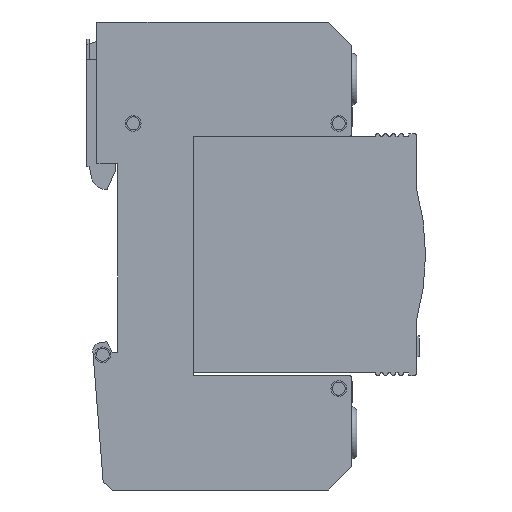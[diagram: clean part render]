
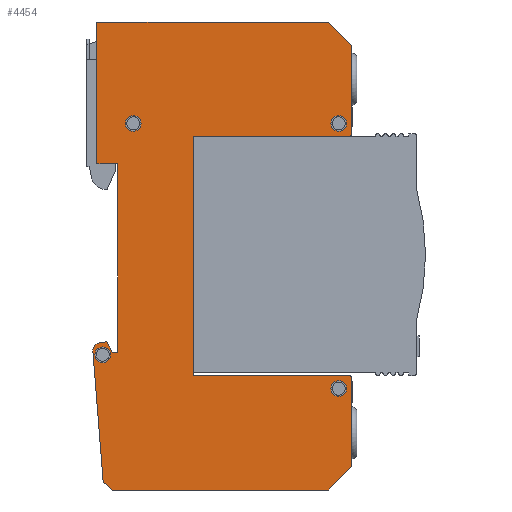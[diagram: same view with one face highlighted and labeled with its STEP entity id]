
A CAD part, front view. The second image highlights one B-rep face of the part: STEP entity #4454.
In plain terms, the highlighted planar face has unit normal (0, -1, 0).
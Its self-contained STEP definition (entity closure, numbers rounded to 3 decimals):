
#2473=CARTESIAN_POINT('',(-18.5,-18.,45.));
#2474=VERTEX_POINT('',#2473);
#2481=CARTESIAN_POINT('',(26.,-18.,45.));
#2482=VERTEX_POINT('',#2481);
#2483=CARTESIAN_POINT('',(-18.5,-18.,45.));
#2484=DIRECTION('',(1.,-0.,-0.));
#2485=VECTOR('',#2484,44.5);
#2486=LINE('',#2483,#2485);
#2487=EDGE_CURVE('',#2474,#2482,#2486,.T.);
#2581=CARTESIAN_POINT('',(26.,-18.,-45.));
#2582=VERTEX_POINT('',#2581);
#2589=CARTESIAN_POINT('',(-15.5,-18.,-45.));
#2590=VERTEX_POINT('',#2589);
#2591=CARTESIAN_POINT('',(26.,-18.,-45.));
#2592=DIRECTION('',(-1.,-0.,-0.));
#2593=VECTOR('',#2592,41.5);
#2594=LINE('',#2591,#2593);
#2595=EDGE_CURVE('',#2582,#2590,#2594,.T.);
#2789=CARTESIAN_POINT('',(-14.5,-18.,-18.5));
#2790=VERTEX_POINT('',#2789);
#2791=CARTESIAN_POINT('',(-14.5,-18.,17.75));
#2792=VERTEX_POINT('',#2791);
#2793=CARTESIAN_POINT('',(-14.5,-18.,-18.5));
#2794=DIRECTION('',(-0.,-0.,1.));
#2795=VECTOR('',#2794,36.25);
#2796=LINE('',#2793,#2795);
#2797=EDGE_CURVE('',#2790,#2792,#2796,.T.);
#2927=CARTESIAN_POINT('',(-19.273,-18.,-18.306));
#2928=VERTEX_POINT('',#2927);
#2935=CARTESIAN_POINT('',(-17.999,-18.,-16.704));
#2936=VERTEX_POINT('',#2935);
#2937=CARTESIAN_POINT('',(-17.777,-18.,-18.188));
#2938=DIRECTION('',(0.,1.,0.));
#2939=DIRECTION('',(0.,-0.,1.));
#2940=AXIS2_PLACEMENT_3D('',#2937,#2938,#2939);
#2941=CIRCLE('',#2940,1.5);
#2942=EDGE_CURVE('',#2928,#2936,#2941,.T.);
#2967=CARTESIAN_POINT('',(-16.632,-18.,-16.5));
#2968=VERTEX_POINT('',#2967);
#2969=CARTESIAN_POINT('',(-17.999,-18.,-16.704));
#2970=DIRECTION('',(0.989,-0.,0.148));
#2971=VECTOR('',#2970,1.383);
#2972=LINE('',#2969,#2971);
#2973=EDGE_CURVE('',#2936,#2968,#2972,.T.);
#2998=CARTESIAN_POINT('',(-15.5,-18.,-18.5));
#2999=VERTEX_POINT('',#2998);
#3000=CARTESIAN_POINT('',(-16.632,-18.,-16.5));
#3001=DIRECTION('',(0.492,0.,-0.87));
#3002=VECTOR('',#3001,2.298);
#3003=LINE('',#3000,#3002);
#3004=EDGE_CURVE('',#2968,#2999,#3003,.T.);
#3027=CARTESIAN_POINT('',(-15.5,-18.,-18.5));
#3028=DIRECTION('',(1.,-0.,-0.));
#3029=VECTOR('',#3028,1.);
#3030=LINE('',#3027,#3029);
#3031=EDGE_CURVE('',#2999,#2790,#3030,.T.);
#3042=CARTESIAN_POINT('',(-17.38,-18.,-17.5));
#3043=VERTEX_POINT('',#3042);
#3044=CARTESIAN_POINT('',(-18.88,-18.,-19.));
#3045=VERTEX_POINT('',#3044);
#3046=CARTESIAN_POINT('',(-17.38,-18.,-19.));
#3047=DIRECTION('',(0.,1.,0.));
#3048=DIRECTION('',(0.,-0.,1.));
#3049=AXIS2_PLACEMENT_3D('',#3046,#3047,#3048);
#3050=CIRCLE('',#3049,1.5);
#3051=EDGE_CURVE('',#3043,#3045,#3050,.T.);
#3053=CARTESIAN_POINT('',(-17.38,-18.,-19.));
#3054=DIRECTION('',(0.,1.,0.));
#3055=DIRECTION('',(0.,-0.,1.));
#3056=AXIS2_PLACEMENT_3D('',#3053,#3054,#3055);
#3057=CIRCLE('',#3056,1.5);
#3058=EDGE_CURVE('',#3045,#3043,#3057,.T.);
#3693=CARTESIAN_POINT('',(-17.29,-18.,-43.498));
#3694=VERTEX_POINT('',#3693);
#3695=CARTESIAN_POINT('',(-15.5,-18.,-45.));
#3696=DIRECTION('',(-0.766,-0.,0.643));
#3697=VECTOR('',#3696,2.337);
#3698=LINE('',#3695,#3697);
#3699=EDGE_CURVE('',#2590,#3694,#3698,.T.);
#3754=CARTESIAN_POINT('',(-17.29,-18.,-43.498));
#3755=DIRECTION('',(-0.078,-0.,0.997));
#3756=VECTOR('',#3755,25.27);
#3757=LINE('',#3754,#3756);
#3758=EDGE_CURVE('',#3694,#2928,#3757,.T.);
#3895=CARTESIAN_POINT('',(30.5,-18.,40.5));
#3896=VERTEX_POINT('',#3895);
#3897=CARTESIAN_POINT('',(26.,-18.,45.));
#3898=DIRECTION('',(0.707,0.,-0.707));
#3899=VECTOR('',#3898,6.364);
#3900=LINE('',#3897,#3899);
#3901=EDGE_CURVE('',#2482,#3896,#3900,.T.);
#3966=CARTESIAN_POINT('',(30.5,-18.,23.5));
#3967=VERTEX_POINT('',#3966);
#3968=CARTESIAN_POINT('',(30.5,-18.,40.5));
#3969=DIRECTION('',(-0.,0.,-1.));
#3970=VECTOR('',#3969,17.);
#3971=LINE('',#3968,#3970);
#3972=EDGE_CURVE('',#3896,#3967,#3971,.T.);
#3998=CARTESIAN_POINT('',(30.,-18.,23.));
#3999=VERTEX_POINT('',#3998);
#4000=CARTESIAN_POINT('',(30.,-18.,23.5));
#4001=DIRECTION('',(0.,1.,0.));
#4002=DIRECTION('',(0.,-0.,1.));
#4003=AXIS2_PLACEMENT_3D('',#4000,#4001,#4002);
#4004=CIRCLE('',#4003,0.5);
#4005=EDGE_CURVE('',#3967,#3999,#4004,.T.);
#4030=CARTESIAN_POINT('',(0.,-18.,23.));
#4031=VERTEX_POINT('',#4030);
#4032=CARTESIAN_POINT('',(30.,-18.,23.));
#4033=DIRECTION('',(-1.,-0.,-0.));
#4034=VECTOR('',#4033,30.);
#4035=LINE('',#4032,#4034);
#4036=EDGE_CURVE('',#3999,#4031,#4035,.T.);
#4061=CARTESIAN_POINT('',(0.,-18.,-23.));
#4062=VERTEX_POINT('',#4061);
#4063=CARTESIAN_POINT('',(0.,-18.,23.));
#4064=DIRECTION('',(-0.,0.,-1.));
#4065=VECTOR('',#4064,46.);
#4066=LINE('',#4063,#4065);
#4067=EDGE_CURVE('',#4031,#4062,#4066,.T.);
#4092=CARTESIAN_POINT('',(30.,-18.,-23.));
#4093=VERTEX_POINT('',#4092);
#4094=CARTESIAN_POINT('',(0.,-18.,-23.));
#4095=DIRECTION('',(1.,-0.,-0.));
#4096=VECTOR('',#4095,30.);
#4097=LINE('',#4094,#4096);
#4098=EDGE_CURVE('',#4062,#4093,#4097,.T.);
#4124=CARTESIAN_POINT('',(30.5,-18.,-23.5));
#4125=VERTEX_POINT('',#4124);
#4126=CARTESIAN_POINT('',(30.,-18.,-23.5));
#4127=DIRECTION('',(0.,1.,0.));
#4128=DIRECTION('',(0.,-0.,1.));
#4129=AXIS2_PLACEMENT_3D('',#4126,#4127,#4128);
#4130=CIRCLE('',#4129,0.5);
#4131=EDGE_CURVE('',#4093,#4125,#4130,.T.);
#4176=CARTESIAN_POINT('',(30.5,-18.,-40.5));
#4177=VERTEX_POINT('',#4176);
#4178=CARTESIAN_POINT('',(30.5,-18.,-23.5));
#4179=DIRECTION('',(-0.,0.,-1.));
#4180=VECTOR('',#4179,17.);
#4181=LINE('',#4178,#4180);
#4182=EDGE_CURVE('',#4125,#4177,#4181,.T.);
#4205=CARTESIAN_POINT('',(30.5,-18.,-40.5));
#4206=DIRECTION('',(-0.707,0.,-0.707));
#4207=VECTOR('',#4206,6.364);
#4208=LINE('',#4205,#4207);
#4209=EDGE_CURVE('',#4177,#2582,#4208,.T.);
#4266=CARTESIAN_POINT('',(28.,-18.,-24.));
#4267=VERTEX_POINT('',#4266);
#4268=CARTESIAN_POINT('',(26.5,-18.,-25.5));
#4269=VERTEX_POINT('',#4268);
#4270=CARTESIAN_POINT('',(28.,-18.,-25.5));
#4271=DIRECTION('',(0.,1.,0.));
#4272=DIRECTION('',(0.,-0.,1.));
#4273=AXIS2_PLACEMENT_3D('',#4270,#4271,#4272);
#4274=CIRCLE('',#4273,1.5);
#4275=EDGE_CURVE('',#4267,#4269,#4274,.T.);
#4277=CARTESIAN_POINT('',(28.,-18.,-25.5));
#4278=DIRECTION('',(0.,1.,0.));
#4279=DIRECTION('',(0.,-0.,1.));
#4280=AXIS2_PLACEMENT_3D('',#4277,#4278,#4279);
#4281=CIRCLE('',#4280,1.5);
#4282=EDGE_CURVE('',#4269,#4267,#4281,.T.);
#4312=CARTESIAN_POINT('',(-11.5,-18.,27.));
#4313=VERTEX_POINT('',#4312);
#4314=CARTESIAN_POINT('',(-13.,-18.,25.5));
#4315=VERTEX_POINT('',#4314);
#4316=CARTESIAN_POINT('',(-11.5,-18.,25.5));
#4317=DIRECTION('',(0.,1.,0.));
#4318=DIRECTION('',(0.,-0.,1.));
#4319=AXIS2_PLACEMENT_3D('',#4316,#4317,#4318);
#4320=CIRCLE('',#4319,1.5);
#4321=EDGE_CURVE('',#4313,#4315,#4320,.T.);
#4323=CARTESIAN_POINT('',(-11.5,-18.,25.5));
#4324=DIRECTION('',(0.,1.,0.));
#4325=DIRECTION('',(0.,-0.,1.));
#4326=AXIS2_PLACEMENT_3D('',#4323,#4324,#4325);
#4327=CIRCLE('',#4326,1.5);
#4328=EDGE_CURVE('',#4315,#4313,#4327,.T.);
#4358=CARTESIAN_POINT('',(28.,-18.,27.));
#4359=VERTEX_POINT('',#4358);
#4360=CARTESIAN_POINT('',(26.5,-18.,25.5));
#4361=VERTEX_POINT('',#4360);
#4362=CARTESIAN_POINT('',(28.,-18.,25.5));
#4363=DIRECTION('',(0.,1.,0.));
#4364=DIRECTION('',(0.,-0.,1.));
#4365=AXIS2_PLACEMENT_3D('',#4362,#4363,#4364);
#4366=CIRCLE('',#4365,1.5);
#4367=EDGE_CURVE('',#4359,#4361,#4366,.T.);
#4369=CARTESIAN_POINT('',(28.,-18.,25.5));
#4370=DIRECTION('',(0.,1.,0.));
#4371=DIRECTION('',(0.,-0.,1.));
#4372=AXIS2_PLACEMENT_3D('',#4369,#4370,#4371);
#4373=CIRCLE('',#4372,1.5);
#4374=EDGE_CURVE('',#4361,#4359,#4373,.T.);
#4399=CARTESIAN_POINT('',(0.,-18.,-0.));
#4400=DIRECTION('',(0.,1.,0.));
#4401=DIRECTION('',(0.,0.,-1.));
#4402=AXIS2_PLACEMENT_3D('',#4399,#4400,#4401);
#4403=PLANE('',#4402);
#4404=ORIENTED_EDGE('',*,*,#4374,.T.);
#4405=ORIENTED_EDGE('',*,*,#4367,.T.);
#4406=EDGE_LOOP('',(#4404,#4405));
#4407=FACE_BOUND('',#4406,.T.);
#4408=ORIENTED_EDGE('',*,*,#4328,.T.);
#4409=ORIENTED_EDGE('',*,*,#4321,.T.);
#4410=EDGE_LOOP('',(#4408,#4409));
#4411=FACE_BOUND('',#4410,.T.);
#4412=ORIENTED_EDGE('',*,*,#4282,.T.);
#4413=ORIENTED_EDGE('',*,*,#4275,.T.);
#4414=EDGE_LOOP('',(#4412,#4413));
#4415=FACE_BOUND('',#4414,.T.);
#4416=ORIENTED_EDGE('',*,*,#3058,.T.);
#4417=ORIENTED_EDGE('',*,*,#3051,.T.);
#4418=EDGE_LOOP('',(#4416,#4417));
#4419=FACE_BOUND('',#4418,.T.);
#4420=ORIENTED_EDGE('',*,*,#3699,.F.);
#4421=ORIENTED_EDGE('',*,*,#2595,.F.);
#4422=ORIENTED_EDGE('',*,*,#4209,.F.);
#4423=ORIENTED_EDGE('',*,*,#4182,.F.);
#4424=ORIENTED_EDGE('',*,*,#4131,.F.);
#4425=ORIENTED_EDGE('',*,*,#4098,.F.);
#4426=ORIENTED_EDGE('',*,*,#4067,.F.);
#4427=ORIENTED_EDGE('',*,*,#4036,.F.);
#4428=ORIENTED_EDGE('',*,*,#4005,.F.);
#4429=ORIENTED_EDGE('',*,*,#3972,.F.);
#4430=ORIENTED_EDGE('',*,*,#3901,.F.);
#4431=ORIENTED_EDGE('',*,*,#2487,.F.);
#4432=CARTESIAN_POINT('',(-18.5,-18.,17.75));
#4433=VERTEX_POINT('',#4432);
#4434=CARTESIAN_POINT('',(-18.5,-18.,45.));
#4435=DIRECTION('',(0.,0.,-1.));
#4436=VECTOR('',#4435,27.25);
#4437=LINE('',#4434,#4436);
#4438=EDGE_CURVE('',#2474,#4433,#4437,.T.);
#4439=ORIENTED_EDGE('',*,*,#4438,.T.);
#4440=CARTESIAN_POINT('',(-18.5,-18.,17.75));
#4441=DIRECTION('',(1.,-0.,-0.));
#4442=VECTOR('',#4441,4.);
#4443=LINE('',#4440,#4442);
#4444=EDGE_CURVE('',#4433,#2792,#4443,.T.);
#4445=ORIENTED_EDGE('',*,*,#4444,.T.);
#4446=ORIENTED_EDGE('',*,*,#2797,.F.);
#4447=ORIENTED_EDGE('',*,*,#3031,.F.);
#4448=ORIENTED_EDGE('',*,*,#3004,.F.);
#4449=ORIENTED_EDGE('',*,*,#2973,.F.);
#4450=ORIENTED_EDGE('',*,*,#2942,.F.);
#4451=ORIENTED_EDGE('',*,*,#3758,.F.);
#4452=EDGE_LOOP('',(#4420,#4421,#4422,#4423,#4424,#4425,#4426,#4427,#4428,#4429,#4430,#4431,#4439,#4445,#4446,#4447,#4448,#4449,#4450,#4451));
#4453=FACE_BOUND('',#4452,.T.);
#4454=ADVANCED_FACE('',(#4407,#4411,#4415,#4419,#4453),#4403,.F.);
